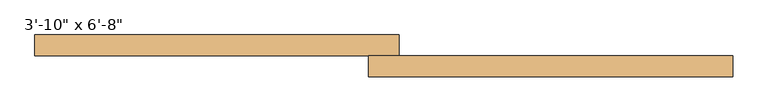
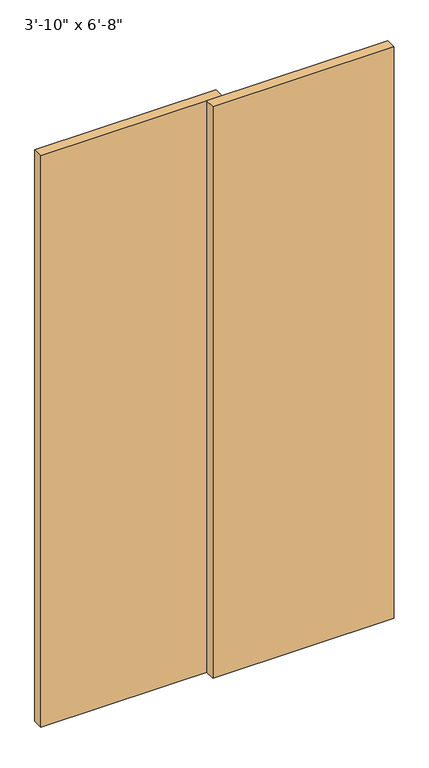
"""IFC4 building model written with IfcOpenShell, lengths in millimetres: door geometry."""

from ifc_helpers import new_model, si_unit, origin, origin_with_axes, place, context, project, spatial, polyline, outline, extrude, source, transform, mapped, element, save


def door_69ba4edc(model_context):
    return source(origin(), model_context, "Body", "SweptSolid", [
        extrude(outline(polyline([(584.2, 18.975), (584.2, -16.025), (-25.4, -16.025), (-25.4, 18.975), (584.2, 18.975)])), origin_with_axes(), (0.0, 0.0, 1.0), 2032.0),
        extrude(outline(polyline([(25.4, 53.975), (25.4, 18.975), (-584.2, 18.975), (-584.2, 53.975), (25.4, 53.975)])), origin_with_axes(), (0.0, 0.0, 1.0), 2032.0),
    ])


if __name__ == "__main__":
    model = new_model("IFC4")
    model_context = context("Model", 3, world=origin())
    ifc_project = project(units=[si_unit("LENGTHUNIT", "METRE", prefix="MILLI")], contexts=[model_context])
    site = spatial("IfcSite", under=ifc_project)
    building = spatial("IfcBuilding", under=site)
    placement = place(None, origin())
    door_shape = door_69ba4edc(model_context)
    element("IfcDoor", 1, ObjectType="Planitar - Double Sliding Door_Flush Panel : 3'-10\" x 6'-8\"", at=placement, inside=building, context=model_context, shape_type="MappedRepresentation", body=[
        mapped(door_shape, transform((0.0, 0.0, 0.0), x_axis=(1.0, 0.0, 0.0), y_axis=(0.0, 1.0, 0.0), z_axis=(0.0, 0.0, 1.0))),
    ])
    save(model, "model.ifc")
